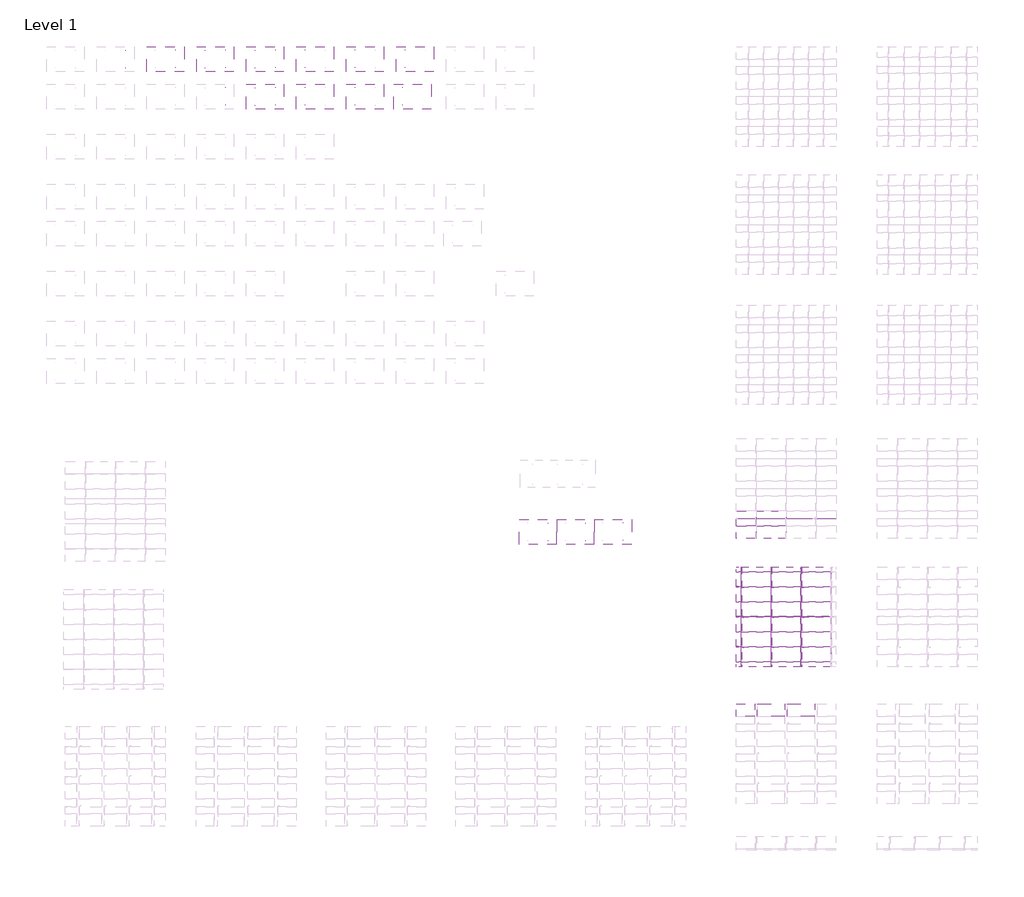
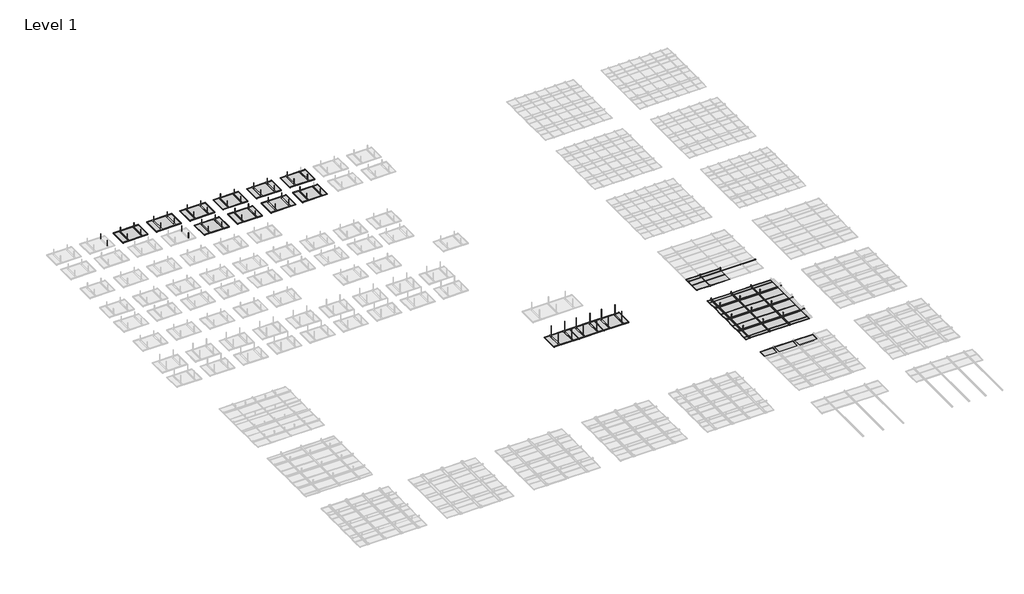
# One storey, part 18 of 32: 138 proxies.
"""IFC4 building model written with IfcOpenShell, lengths in millimetres."""

from ifc_helpers import new_model, si_unit, origin, place, context, project, spatial, transform, mapped, element, save
from components import generic_models_7de01034, generic_models_81909a8c, generic_models_6a3b3989, generic_models_23599627, generic_models_0eccee6e, generic_models_0902a4dc, generic_models_fc0800be, generic_models_f1efeb4e, generic_models_8a91d987, generic_models_204b18f4, generic_models_ee162b96, generic_models_9e18e937, generic_models_28f6a95c, generic_models_9ccf16c1, generic_models_38625c8c, generic_models_52b0cff2, generic_models_a15f8cf3, generic_models_8a6f20a3, generic_models_7573e460, generic_models_cc1ed79e, generic_models_831c42b2, generic_models_85b4ffa8

model = new_model("IFC4")

# Units and contexts
model_context = context("Model", 3, world=origin())
ifc_project = project(units=[si_unit("LENGTHUNIT", "METRE", prefix="MILLI")], contexts=[model_context])

# Site, building, storey
site = spatial("IfcSite", under=ifc_project)
building = spatial("IfcBuilding", under=site)
storey = spatial("IfcBuildingStorey", under=building, Name="Level 1", Elevation=0.0)

# Proxies
placement = place(None, origin())
generic_models_shape = generic_models_7de01034(model_context)
element("IfcBuildingElementProxy", 1, Name="durlum_S4_panel : durlum_S4_panel", ObjectType="durlum_S4_panel : durlum_S4_panel", at=placement, inside=storey, context=model_context, shape_type="MappedRepresentation", body=[
    mapped(generic_models_shape, transform((-18590.1736977, 3132.0111467, 3700.0), x_axis=(1.0, 0.0, 0.0), y_axis=(0.0, 1.0, 0.0), z_axis=(0.0, 0.0, 1.0))),
])
element("IfcBuildingElementProxy", 2, Name="durlum_S4_panel : durlum_S4_panel", ObjectType="durlum_S4_panel : durlum_S4_panel", at=placement, inside=storey, context=model_context, shape_type="MappedRepresentation", body=[
    mapped(generic_models_shape, transform((-16190.1736977, 3132.0111467, 3700.0), x_axis=(1.0, 0.0, 0.0), y_axis=(0.0, 1.0, 0.0), z_axis=(0.0, 0.0, 1.0))),
])
element("IfcBuildingElementProxy", 3, Name="durlum_S4_panel : durlum_S4_panel", ObjectType="durlum_S4_panel : durlum_S4_panel", at=placement, inside=storey, context=model_context, shape_type="MappedRepresentation", body=[
    mapped(generic_models_shape, transform((-18590.1736977, 3732.0111467, 3700.0), x_axis=(1.0, 0.0, 0.0), y_axis=(0.0, 1.0, 0.0), z_axis=(0.0, 0.0, 1.0))),
])
element("IfcBuildingElementProxy", 4, Name="durlum_S4_panel : durlum_S4_panel", ObjectType="durlum_S4_panel : durlum_S4_panel", at=placement, inside=storey, context=model_context, shape_type="MappedRepresentation", body=[
    mapped(generic_models_shape, transform((-18590.1736977, 4332.0111467, 3700.0), x_axis=(1.0, 0.0, 0.0), y_axis=(0.0, 1.0, 0.0), z_axis=(0.0, 0.0, 1.0))),
])
element("IfcBuildingElementProxy", 5, Name="durlum_S4_panel : durlum_S4_panel", ObjectType="durlum_S4_panel : durlum_S4_panel", at=placement, inside=storey, context=model_context, shape_type="MappedRepresentation", body=[
    mapped(generic_models_shape, transform((-16190.1736977, 4332.0111467, 3700.0), x_axis=(1.0, 0.0, 0.0), y_axis=(0.0, 1.0, 0.0), z_axis=(0.0, 0.0, 1.0))),
])
element("IfcBuildingElementProxy", 6, Name="durlum_S4_panel : durlum_S4_panel", ObjectType="durlum_S4_panel : durlum_S4_panel", at=placement, inside=storey, context=model_context, shape_type="MappedRepresentation", body=[
    mapped(generic_models_shape, transform((-18590.1736977, 4932.0111467, 3700.0), x_axis=(1.0, 0.0, 0.0), y_axis=(0.0, 1.0, 0.0), z_axis=(0.0, 0.0, 1.0))),
])
element("IfcBuildingElementProxy", 7, Name="durlum_S4_panel : durlum_S4_panel", ObjectType="durlum_S4_panel : durlum_S4_panel", at=placement, inside=storey, context=model_context, shape_type="MappedRepresentation", body=[
    mapped(generic_models_shape, transform((-16190.1736977, 4932.0111467, 3700.0), x_axis=(1.0, 0.0, 0.0), y_axis=(0.0, 1.0, 0.0), z_axis=(0.0, 0.0, 1.0))),
])
element("IfcBuildingElementProxy", 8, Name="durlum_S4_panel : durlum_S4_panel", ObjectType="durlum_S4_panel : durlum_S4_panel", at=placement, inside=storey, context=model_context, shape_type="MappedRepresentation", body=[
    mapped(generic_models_shape, transform((-18590.1736977, 2532.0111467, 3700.0), x_axis=(1.0, 0.0, 0.0), y_axis=(0.0, 1.0, 0.0), z_axis=(0.0, 0.0, 1.0))),
])
element("IfcBuildingElementProxy", 9, Name="durlum_S4_panel : durlum_S4_panel", ObjectType="durlum_S4_panel : durlum_S4_panel", at=placement, inside=storey, context=model_context, shape_type="MappedRepresentation", body=[
    mapped(generic_models_shape, transform((-16190.1736977, 2532.0111467, 3700.0), x_axis=(1.0, 0.0, 0.0), y_axis=(0.0, 1.0, 0.0), z_axis=(0.0, 0.0, 1.0))),
])
element("IfcBuildingElementProxy", 10, Name="durlum_S4_panel : durlum_S4_panel", ObjectType="durlum_S4_panel : durlum_S4_panel", at=placement, inside=storey, context=model_context, shape_type="MappedRepresentation", body=[
    mapped(generic_models_shape, transform((-18590.1736977, 5532.0111467, 3700.0), x_axis=(1.0, 0.0, 0.0), y_axis=(0.0, 1.0, 0.0), z_axis=(0.0, 0.0, 1.0))),
])
element("IfcBuildingElementProxy", 11, Name="durlum_S4_panel : durlum_S4_panel", ObjectType="durlum_S4_panel : durlum_S4_panel", at=placement, inside=storey, context=model_context, shape_type="MappedRepresentation", body=[
    mapped(generic_models_shape, transform((-16190.1736977, 5532.0111467, 3700.0), x_axis=(1.0, 0.0, 0.0), y_axis=(0.0, 1.0, 0.0), z_axis=(0.0, 0.0, 1.0))),
])
element("IfcBuildingElementProxy", 12, Name="durlum_S4_panel : durlum_S4_panel", ObjectType="durlum_S4_panel : durlum_S4_panel", at=placement, inside=storey, context=model_context, shape_type="MappedRepresentation", body=[
    mapped(generic_models_shape, transform((-16190.1736977, 3732.0111467, 3700.0), x_axis=(1.0, 0.0, 0.0), y_axis=(0.0, 1.0, 0.0), z_axis=(0.0, 0.0, 1.0))),
])
element("IfcBuildingElementProxy", 13, Name="durlum_S4_panel : durlum_S4_panel", ObjectType="durlum_S4_panel : durlum_S4_panel", at=placement, inside=storey, context=model_context, shape_type="MappedRepresentation", body=[
    mapped(generic_models_shape, transform((-17390.1736977, 3132.0111467, 3700.0), x_axis=(1.0, 0.0, 0.0), y_axis=(0.0, 1.0, 0.0), z_axis=(0.0, 0.0, 1.0))),
])
element("IfcBuildingElementProxy", 14, Name="durlum_S4_panel : durlum_S4_panel", ObjectType="durlum_S4_panel : durlum_S4_panel", at=placement, inside=storey, context=model_context, shape_type="MappedRepresentation", body=[
    mapped(generic_models_shape, transform((-17390.1736977, 3732.0111467, 3700.0), x_axis=(1.0, 0.0, 0.0), y_axis=(0.0, 1.0, 0.0), z_axis=(0.0, 0.0, 1.0))),
])
element("IfcBuildingElementProxy", 15, Name="durlum_S4_panel : durlum_S4_panel", ObjectType="durlum_S4_panel : durlum_S4_panel", at=placement, inside=storey, context=model_context, shape_type="MappedRepresentation", body=[
    mapped(generic_models_shape, transform((-17390.1736977, 4332.0111467, 3700.0), x_axis=(1.0, 0.0, 0.0), y_axis=(0.0, 1.0, 0.0), z_axis=(0.0, 0.0, 1.0))),
])
element("IfcBuildingElementProxy", 16, Name="durlum_S4_panel : durlum_S4_panel", ObjectType="durlum_S4_panel : durlum_S4_panel", at=placement, inside=storey, context=model_context, shape_type="MappedRepresentation", body=[
    mapped(generic_models_shape, transform((-17390.1736977, 4932.0111467, 3700.0), x_axis=(1.0, 0.0, 0.0), y_axis=(0.0, 1.0, 0.0), z_axis=(0.0, 0.0, 1.0))),
])
element("IfcBuildingElementProxy", 17, Name="durlum_S4_panel : durlum_S4_panel", ObjectType="durlum_S4_panel : durlum_S4_panel", at=placement, inside=storey, context=model_context, shape_type="MappedRepresentation", body=[
    mapped(generic_models_shape, transform((-17390.1736977, 2532.0111467, 3700.0), x_axis=(1.0, 0.0, 0.0), y_axis=(0.0, 1.0, 0.0), z_axis=(0.0, 0.0, 1.0))),
])
element("IfcBuildingElementProxy", 18, Name="durlum_S4_panel : durlum_S4_panel", ObjectType="durlum_S4_panel : durlum_S4_panel", at=placement, inside=storey, context=model_context, shape_type="MappedRepresentation", body=[
    mapped(generic_models_shape, transform((-17390.1736977, 5532.0111467, 3700.0), x_axis=(1.0, 0.0, 0.0), y_axis=(0.0, 1.0, 0.0), z_axis=(0.0, 0.0, 1.0))),
])
generic_models_2_shape = generic_models_81909a8c(model_context)
element("IfcBuildingElementProxy", 19, Name="durlum_S4_panel : durlum_S4_panel_wall_width_cut", ObjectType="durlum_S4_panel : durlum_S4_panel_wall_width_cut", at=placement, inside=storey, context=model_context, shape_type="MappedRepresentation", body=[
    mapped(generic_models_2_shape, transform((-16190.1736977, 2132.0111467, 3700.0), x_axis=(1.0, 0.0, 0.0), y_axis=(0.0, 1.0, 0.0), z_axis=(0.0, 0.0, 1.0))),
])
element("IfcBuildingElementProxy", 20, Name="durlum_S4_panel : durlum_S4_panel_wall_width_cut", ObjectType="durlum_S4_panel : durlum_S4_panel_wall_width_cut", at=placement, inside=storey, context=model_context, shape_type="MappedRepresentation", body=[
    mapped(generic_models_2_shape, transform((-16190.1736977, 5932.0111467, 3700.0), x_axis=(1.0, 0.0, 0.0), y_axis=(0.0, 1.0, 0.0), z_axis=(0.0, 0.0, 1.0))),
])
element("IfcBuildingElementProxy", 21, Name="durlum_S4_panel : durlum_S4_panel_wall_width_cut", ObjectType="durlum_S4_panel : durlum_S4_panel_wall_width_cut", at=placement, inside=storey, context=model_context, shape_type="MappedRepresentation", body=[
    mapped(generic_models_2_shape, transform((-18590.1736977, 2132.0111467, 3700.0), x_axis=(1.0, 0.0, 0.0), y_axis=(0.0, 1.0, 0.0), z_axis=(0.0, 0.0, 1.0))),
])
element("IfcBuildingElementProxy", 22, Name="durlum_S4_panel : durlum_S4_panel_wall_width_cut", ObjectType="durlum_S4_panel : durlum_S4_panel_wall_width_cut", at=placement, inside=storey, context=model_context, shape_type="MappedRepresentation", body=[
    mapped(generic_models_2_shape, transform((-18590.1736977, 5932.0111467, 3700.0), x_axis=(1.0, 0.0, 0.0), y_axis=(0.0, 1.0, 0.0), z_axis=(0.0, 0.0, 1.0))),
])
element("IfcBuildingElementProxy", 23, Name="durlum_S4_panel : durlum_S4_panel_wall_width_cut", ObjectType="durlum_S4_panel : durlum_S4_panel_wall_width_cut", at=placement, inside=storey, context=model_context, shape_type="MappedRepresentation", body=[
    mapped(generic_models_2_shape, transform((-17390.1736977, 2132.0111467, 3700.0), x_axis=(1.0, 0.0, 0.0), y_axis=(0.0, 1.0, 0.0), z_axis=(0.0, 0.0, 1.0))),
])
element("IfcBuildingElementProxy", 24, Name="durlum_S4_panel : durlum_S4_panel_wall_width_cut", ObjectType="durlum_S4_panel : durlum_S4_panel_wall_width_cut", at=placement, inside=storey, context=model_context, shape_type="MappedRepresentation", body=[
    mapped(generic_models_2_shape, transform((-17390.1736977, 5932.0111467, 3700.0), x_axis=(1.0, 0.0, 0.0), y_axis=(0.0, 1.0, 0.0), z_axis=(0.0, 0.0, 1.0))),
])
generic_models_3_shape = generic_models_6a3b3989(model_context)
element("IfcBuildingElementProxy", 25, Name="durlum_S4_panel : durlum_S4_panel_wall_length_cut", ObjectType="durlum_S4_panel : durlum_S4_panel_wall_length_cut", at=placement, inside=storey, context=model_context, shape_type="MappedRepresentation", body=[
    mapped(generic_models_3_shape, transform((-19290.1736977, 3132.0111467, 3700.0), x_axis=(1.0, 0.0, 0.0), y_axis=(0.0, 1.0, 0.0), z_axis=(0.0, 0.0, 1.0))),
])
element("IfcBuildingElementProxy", 26, Name="durlum_S4_panel : durlum_S4_panel_wall_length_cut", ObjectType="durlum_S4_panel : durlum_S4_panel_wall_length_cut", at=placement, inside=storey, context=model_context, shape_type="MappedRepresentation", body=[
    mapped(generic_models_3_shape, transform((-19290.1736977, 3732.0111467, 3700.0), x_axis=(1.0, 0.0, 0.0), y_axis=(0.0, 1.0, 0.0), z_axis=(0.0, 0.0, 1.0))),
])
element("IfcBuildingElementProxy", 27, Name="durlum_S4_panel : durlum_S4_panel_wall_length_cut", ObjectType="durlum_S4_panel : durlum_S4_panel_wall_length_cut", at=placement, inside=storey, context=model_context, shape_type="MappedRepresentation", body=[
    mapped(generic_models_3_shape, transform((-19290.1736977, 4332.0111467, 3700.0), x_axis=(1.0, 0.0, 0.0), y_axis=(0.0, 1.0, 0.0), z_axis=(0.0, 0.0, 1.0))),
])
element("IfcBuildingElementProxy", 28, Name="durlum_S4_panel : durlum_S4_panel_wall_length_cut", ObjectType="durlum_S4_panel : durlum_S4_panel_wall_length_cut", at=placement, inside=storey, context=model_context, shape_type="MappedRepresentation", body=[
    mapped(generic_models_3_shape, transform((-19290.1736977, 4932.0111467, 3700.0), x_axis=(1.0, 0.0, 0.0), y_axis=(0.0, 1.0, 0.0), z_axis=(0.0, 0.0, 1.0))),
])
element("IfcBuildingElementProxy", 29, Name="durlum_S4_panel : durlum_S4_panel_wall_length_cut", ObjectType="durlum_S4_panel : durlum_S4_panel_wall_length_cut", at=placement, inside=storey, context=model_context, shape_type="MappedRepresentation", body=[
    mapped(generic_models_3_shape, transform((-19290.1736977, 2532.0111467, 3700.0), x_axis=(1.0, 0.0, 0.0), y_axis=(0.0, 1.0, 0.0), z_axis=(0.0, 0.0, 1.0))),
])
element("IfcBuildingElementProxy", 30, Name="durlum_S4_panel : durlum_S4_panel_wall_length_cut", ObjectType="durlum_S4_panel : durlum_S4_panel_wall_length_cut", at=placement, inside=storey, context=model_context, shape_type="MappedRepresentation", body=[
    mapped(generic_models_3_shape, transform((-19290.1736977, 5532.0111467, 3700.0), x_axis=(1.0, 0.0, 0.0), y_axis=(0.0, 1.0, 0.0), z_axis=(0.0, 0.0, 1.0))),
])
generic_models_4_shape = generic_models_23599627(model_context)
element("IfcBuildingElementProxy", 31, Name="durlum_S4_panel : durlum_S4_panel_wall_corner", ObjectType="durlum_S4_panel : durlum_S4_panel_wall_corner", at=placement, inside=storey, context=model_context, shape_type="MappedRepresentation", body=[
    mapped(generic_models_4_shape, transform((-19290.1736977, 2132.0111467, 3700.0), x_axis=(1.0, 0.0, 0.0), y_axis=(0.0, 1.0, 0.0), z_axis=(0.0, 0.0, 1.0))),
])
element("IfcBuildingElementProxy", 32, Name="durlum_S4_panel : durlum_S4_panel_wall_corner", ObjectType="durlum_S4_panel : durlum_S4_panel_wall_corner", at=placement, inside=storey, context=model_context, shape_type="MappedRepresentation", body=[
    mapped(generic_models_4_shape, transform((-19290.1736977, 5932.0111467, 3700.0), x_axis=(1.0, 0.0, 0.0), y_axis=(0.0, 1.0, 0.0), z_axis=(0.0, 0.0, 1.0))),
])
generic_models_5_shape = generic_models_0eccee6e(model_context)
element("IfcBuildingElementProxy", 33, Name="durlum_dur_SOLO_RHOMBOS_TYPE1 : durlum_dur_SOLO_RHOMBOS_TYPE1", ObjectType="durlum_dur_SOLO_RHOMBOS_TYPE1 : durlum_dur_SOLO_RHOMBOS_TYPE1", at=placement, inside=storey, context=model_context, shape_type="MappedRepresentation", body=[
    mapped(generic_models_5_shape, transform((-24317.5776803, 7432.9405891, 3268.4515177), x_axis=(1.0, 0.0, 0.0), y_axis=(0.0, 1.0, 0.0), z_axis=(0.0, 0.0, 1.0))),
])
element("IfcBuildingElementProxy", 34, Name="durlum_dur_SOLO_RHOMBOS_TYPE1 : durlum_dur_SOLO_RHOMBOS_TYPE1", ObjectType="durlum_dur_SOLO_RHOMBOS_TYPE1 : durlum_dur_SOLO_RHOMBOS_TYPE1", at=placement, inside=storey, context=model_context, shape_type="MappedRepresentation", body=[
    mapped(generic_models_5_shape, transform((-27317.5776803, 7432.9405891, 3268.4515177), x_axis=(1.0, 0.0, 0.0), y_axis=(0.0, 1.0, 0.0), z_axis=(0.0, 0.0, 1.0))),
])
element("IfcBuildingElementProxy", 35, Name="durlum_dur_SOLO_RHOMBOS_TYPE1 : durlum_dur_SOLO_RHOMBOS_TYPE1", ObjectType="durlum_dur_SOLO_RHOMBOS_TYPE1 : durlum_dur_SOLO_RHOMBOS_TYPE1", at=placement, inside=storey, context=model_context, shape_type="MappedRepresentation", body=[
    mapped(generic_models_5_shape, transform((-25817.5776803, 7432.9405891, 3268.4515177), x_axis=(1.0, 0.0, 0.0), y_axis=(0.0, 1.0, 0.0), z_axis=(0.0, 0.0, 1.0))),
])
generic_models_6_shape = generic_models_0902a4dc(model_context)
element("IfcBuildingElementProxy", 36, Name="durlum_S5-100_panel : durlum_S5-100_panel_wall_corner", ObjectType="durlum_S5-100_panel : durlum_S5-100_panel_wall_corner", at=placement, inside=storey, context=model_context, shape_type="MappedRepresentation", body=[
    mapped(generic_models_6_shape, transform((-19015.4236977, 301.7696119, 3800.0), x_axis=(1.0, 0.0, 0.0), y_axis=(0.0, 1.0, 0.0), z_axis=(0.0, 0.0, 1.0))),
])
generic_models_7_shape = generic_models_fc0800be(model_context)
element("IfcBuildingElementProxy", 37, Name="durlum_S5-100_panel : durlum_S5-100_panel_wall_width_cut", ObjectType="durlum_S5-100_panel : durlum_S5-100_panel_wall_width_cut", at=placement, inside=storey, context=model_context, shape_type="MappedRepresentation", body=[
    mapped(generic_models_7_shape, transform((-16790.1736977, 301.7696119, 3800.0), x_axis=(1.0, 0.0, 0.0), y_axis=(0.0, 1.0, 0.0), z_axis=(0.0, 0.0, 1.0))),
])
element("IfcBuildingElementProxy", 38, Name="durlum_S5-100_panel : durlum_S5-100_panel_wall_width_cut", ObjectType="durlum_S5-100_panel : durlum_S5-100_panel_wall_width_cut", at=placement, inside=storey, context=model_context, shape_type="MappedRepresentation", body=[
    mapped(generic_models_7_shape, transform((-17990.1736977, 301.7696119, 3800.0), x_axis=(1.0, 0.0, 0.0), y_axis=(0.0, 1.0, 0.0), z_axis=(0.0, 0.0, 1.0))),
])
generic_models_8_shape = generic_models_f1efeb4e(model_context)
element("IfcBuildingElementProxy", 39, Name="durlum_U1300 : durlum_U1300", ObjectType="durlum_U1300 : durlum_U1300", at=placement, inside=storey, context=model_context, shape_type="MappedRepresentation", body=[
    mapped(generic_models_8_shape, transform((-18684.1736977, 7962.5129347, 3081.9124682), x_axis=(0.0, -1.0, 0.0), y_axis=(1.0, 0.0, 0.0), z_axis=(0.0, 0.0, 1.0))),
])
element("IfcBuildingElementProxy", 40, Name="durlum_U1300 : durlum_U1300", ObjectType="durlum_U1300 : durlum_U1300", at=placement, inside=storey, context=model_context, shape_type="MappedRepresentation", body=[
    mapped(generic_models_8_shape, transform((-17484.1736977, 7962.5129347, 3081.9124682), x_axis=(0.0, -1.0, 0.0), y_axis=(1.0, 0.0, 0.0), z_axis=(0.0, 0.0, 1.0))),
])
generic_models_9_shape = generic_models_8a91d987(model_context)
element("IfcBuildingElementProxy", 41, Name="durlum_U1300 : durlum_U1300", ObjectType="durlum_U1300 : durlum_U1300", at=placement, inside=storey, context=model_context, shape_type="MappedRepresentation", body=[
    mapped(generic_models_9_shape, transform((-19090.1736977, 2832.0111467, 3050.4124682), x_axis=(1.0, 0.0, 0.0), y_axis=(0.0, 1.0, 0.0), z_axis=(0.0, 0.0, 1.0))),
])
element("IfcBuildingElementProxy", 42, Name="durlum_U1300 : durlum_U1300", ObjectType="durlum_U1300 : durlum_U1300", at=placement, inside=storey, context=model_context, shape_type="MappedRepresentation", body=[
    mapped(generic_models_9_shape, transform((-19090.1736977, 5232.0111467, 3050.4124682), x_axis=(1.0, 0.0, 0.0), y_axis=(0.0, 1.0, 0.0), z_axis=(0.0, 0.0, 1.0))),
])
element("IfcBuildingElementProxy", 43, Name="durlum_U1300 : durlum_U1300", ObjectType="durlum_U1300 : durlum_U1300", at=placement, inside=storey, context=model_context, shape_type="MappedRepresentation", body=[
    mapped(generic_models_9_shape, transform((-19090.1736977, 4032.0111467, 3050.4124682), x_axis=(1.0, 0.0, 0.0), y_axis=(0.0, 1.0, 0.0), z_axis=(0.0, 0.0, 1.0))),
])
element("IfcBuildingElementProxy", 44, Name="durlum_U1300 : durlum_U1300", ObjectType="durlum_U1300 : durlum_U1300", at=placement, inside=storey, context=model_context, shape_type="MappedRepresentation", body=[
    mapped(generic_models_9_shape, transform((-17890.1736977, 2832.0111467, 3050.4124682), x_axis=(1.0, 0.0, 0.0), y_axis=(0.0, 1.0, 0.0), z_axis=(0.0, 0.0, 1.0))),
])
element("IfcBuildingElementProxy", 45, Name="durlum_U1300 : durlum_U1300", ObjectType="durlum_U1300 : durlum_U1300", at=placement, inside=storey, context=model_context, shape_type="MappedRepresentation", body=[
    mapped(generic_models_9_shape, transform((-16690.1736977, 2832.0111467, 3050.4124682), x_axis=(1.0, 0.0, 0.0), y_axis=(0.0, 1.0, 0.0), z_axis=(0.0, 0.0, 1.0))),
])
element("IfcBuildingElementProxy", 46, Name="durlum_U1300 : durlum_U1300", ObjectType="durlum_U1300 : durlum_U1300", at=placement, inside=storey, context=model_context, shape_type="MappedRepresentation", body=[
    mapped(generic_models_9_shape, transform((-17890.1736977, 5232.0111467, 3050.4124682), x_axis=(1.0, 0.0, 0.0), y_axis=(0.0, 1.0, 0.0), z_axis=(0.0, 0.0, 1.0))),
])
element("IfcBuildingElementProxy", 47, Name="durlum_U1300 : durlum_U1300", ObjectType="durlum_U1300 : durlum_U1300", at=placement, inside=storey, context=model_context, shape_type="MappedRepresentation", body=[
    mapped(generic_models_9_shape, transform((-16690.1736977, 5232.0111467, 3050.4124682), x_axis=(1.0, 0.0, 0.0), y_axis=(0.0, 1.0, 0.0), z_axis=(0.0, 0.0, 1.0))),
])
element("IfcBuildingElementProxy", 48, Name="durlum_U1300 : durlum_U1300", ObjectType="durlum_U1300 : durlum_U1300", at=placement, inside=storey, context=model_context, shape_type="MappedRepresentation", body=[
    mapped(generic_models_9_shape, transform((-17890.1736977, 4032.0111467, 3050.4124682), x_axis=(1.0, 0.0, 0.0), y_axis=(0.0, 1.0, 0.0), z_axis=(0.0, 0.0, 1.0))),
])
element("IfcBuildingElementProxy", 49, Name="durlum_U1300 : durlum_U1300", ObjectType="durlum_U1300 : durlum_U1300", at=placement, inside=storey, context=model_context, shape_type="MappedRepresentation", body=[
    mapped(generic_models_9_shape, transform((-16690.1736977, 4032.0111467, 3050.4124682), x_axis=(1.0, 0.0, 0.0), y_axis=(0.0, 1.0, 0.0), z_axis=(0.0, 0.0, 1.0))),
])
generic_models_10_shape = generic_models_204b18f4(model_context)
element("IfcBuildingElementProxy", 50, Name="durlum_threaded_rod_M6 : durlum_threaded_rod_M6", ObjectType="durlum_threaded_rod_M6 : durlum_threaded_rod_M6", at=placement, inside=storey, context=model_context, shape_type="MappedRepresentation", body=[
    mapped(generic_models_10_shape, transform((-23912.5776803, 7082.9405891, 3318.4515177), x_axis=(0.0, -1.0, 0.0), y_axis=(1.0, 0.0, 0.0), z_axis=(0.0, 0.0, 1.0))),
])
element("IfcBuildingElementProxy", 51, Name="durlum_threaded_rod_M6 : durlum_threaded_rod_M6", ObjectType="durlum_threaded_rod_M6 : durlum_threaded_rod_M6", at=placement, inside=storey, context=model_context, shape_type="MappedRepresentation", body=[
    mapped(generic_models_10_shape, transform((-23912.5776803, 7782.9405891, 3318.4515177), x_axis=(0.0, -1.0, 0.0), y_axis=(1.0, 0.0, 0.0), z_axis=(0.0, 0.0, 1.0))),
])
element("IfcBuildingElementProxy", 52, Name="durlum_threaded_rod_M6 : durlum_threaded_rod_M6", ObjectType="durlum_threaded_rod_M6 : durlum_threaded_rod_M6", at=placement, inside=storey, context=model_context, shape_type="MappedRepresentation", body=[
    mapped(generic_models_10_shape, transform((-24722.5776803, 7082.9405891, 3318.4515177), x_axis=(0.0, -1.0, 0.0), y_axis=(1.0, 0.0, 0.0), z_axis=(0.0, 0.0, 1.0))),
])
element("IfcBuildingElementProxy", 53, Name="durlum_threaded_rod_M6 : durlum_threaded_rod_M6", ObjectType="durlum_threaded_rod_M6 : durlum_threaded_rod_M6", at=placement, inside=storey, context=model_context, shape_type="MappedRepresentation", body=[
    mapped(generic_models_10_shape, transform((-24722.5776803, 7782.9405891, 3318.4515177), x_axis=(0.0, -1.0, 0.0), y_axis=(1.0, 0.0, 0.0), z_axis=(0.0, 0.0, 1.0))),
])
element("IfcBuildingElementProxy", 54, Name="durlum_threaded_rod_M6 : durlum_threaded_rod_M6", ObjectType="durlum_threaded_rod_M6 : durlum_threaded_rod_M6", at=placement, inside=storey, context=model_context, shape_type="MappedRepresentation", body=[
    mapped(generic_models_10_shape, transform((-26912.5776803, 7082.9405891, 3318.4515177), x_axis=(0.0, -1.0, 0.0), y_axis=(1.0, 0.0, 0.0), z_axis=(0.0, 0.0, 1.0))),
])
element("IfcBuildingElementProxy", 55, Name="durlum_threaded_rod_M6 : durlum_threaded_rod_M6", ObjectType="durlum_threaded_rod_M6 : durlum_threaded_rod_M6", at=placement, inside=storey, context=model_context, shape_type="MappedRepresentation", body=[
    mapped(generic_models_10_shape, transform((-26912.5776803, 7782.9405891, 3318.4515177), x_axis=(0.0, -1.0, 0.0), y_axis=(1.0, 0.0, 0.0), z_axis=(0.0, 0.0, 1.0))),
])
element("IfcBuildingElementProxy", 56, Name="durlum_threaded_rod_M6 : durlum_threaded_rod_M6", ObjectType="durlum_threaded_rod_M6 : durlum_threaded_rod_M6", at=placement, inside=storey, context=model_context, shape_type="MappedRepresentation", body=[
    mapped(generic_models_10_shape, transform((-27722.5776803, 7082.9405891, 3318.4515177), x_axis=(0.0, -1.0, 0.0), y_axis=(1.0, 0.0, 0.0), z_axis=(0.0, 0.0, 1.0))),
])
element("IfcBuildingElementProxy", 57, Name="durlum_threaded_rod_M6 : durlum_threaded_rod_M6", ObjectType="durlum_threaded_rod_M6 : durlum_threaded_rod_M6", at=placement, inside=storey, context=model_context, shape_type="MappedRepresentation", body=[
    mapped(generic_models_10_shape, transform((-27722.5776803, 7782.9405891, 3318.4515177), x_axis=(0.0, -1.0, 0.0), y_axis=(1.0, 0.0, 0.0), z_axis=(0.0, 0.0, 1.0))),
])
element("IfcBuildingElementProxy", 58, Name="durlum_threaded_rod_M6 : durlum_threaded_rod_M6", ObjectType="durlum_threaded_rod_M6 : durlum_threaded_rod_M6", at=placement, inside=storey, context=model_context, shape_type="MappedRepresentation", body=[
    mapped(generic_models_10_shape, transform((-25412.5776803, 7082.9405891, 3318.4515177), x_axis=(0.0, -1.0, 0.0), y_axis=(1.0, 0.0, 0.0), z_axis=(0.0, 0.0, 1.0))),
])
element("IfcBuildingElementProxy", 59, Name="durlum_threaded_rod_M6 : durlum_threaded_rod_M6", ObjectType="durlum_threaded_rod_M6 : durlum_threaded_rod_M6", at=placement, inside=storey, context=model_context, shape_type="MappedRepresentation", body=[
    mapped(generic_models_10_shape, transform((-25412.5776803, 7782.9405891, 3318.4515177), x_axis=(0.0, -1.0, 0.0), y_axis=(1.0, 0.0, 0.0), z_axis=(0.0, 0.0, 1.0))),
])
element("IfcBuildingElementProxy", 60, Name="durlum_threaded_rod_M6 : durlum_threaded_rod_M6", ObjectType="durlum_threaded_rod_M6 : durlum_threaded_rod_M6", at=placement, inside=storey, context=model_context, shape_type="MappedRepresentation", body=[
    mapped(generic_models_10_shape, transform((-26222.5776803, 7082.9405891, 3318.4515177), x_axis=(0.0, -1.0, 0.0), y_axis=(1.0, 0.0, 0.0), z_axis=(0.0, 0.0, 1.0))),
])
element("IfcBuildingElementProxy", 61, Name="durlum_threaded_rod_M6 : durlum_threaded_rod_M6", ObjectType="durlum_threaded_rod_M6 : durlum_threaded_rod_M6", at=placement, inside=storey, context=model_context, shape_type="MappedRepresentation", body=[
    mapped(generic_models_10_shape, transform((-26222.5776803, 7782.9405891, 3318.4515177), x_axis=(0.0, -1.0, 0.0), y_axis=(1.0, 0.0, 0.0), z_axis=(0.0, 0.0, 1.0))),
])
generic_models_11_shape = generic_models_ee162b96(model_context)
element("IfcBuildingElementProxy", 62, Name="durlum_threaded_rod_M6 : durlum_threaded_rod_M6", ObjectType="durlum_threaded_rod_M6 : durlum_threaded_rod_M6", at=placement, inside=storey, context=model_context, shape_type="MappedRepresentation", body=[
    mapped(generic_models_11_shape, transform((-43821.531136, 26008.7392516, 3672.1013669), x_axis=(0.0, -1.0, 0.0), y_axis=(1.0, 0.0, 0.0), z_axis=(0.0, 0.0, 1.0))),
])
element("IfcBuildingElementProxy", 63, Name="durlum_threaded_rod_M6 : durlum_threaded_rod_M6", ObjectType="durlum_threaded_rod_M6 : durlum_threaded_rod_M6", at=placement, inside=storey, context=model_context, shape_type="MappedRepresentation", body=[
    mapped(generic_models_11_shape, transform((-43821.531136, 26708.7392516, 3672.1013669), x_axis=(0.0, -1.0, 0.0), y_axis=(1.0, 0.0, 0.0), z_axis=(0.0, 0.0, 1.0))),
])
element("IfcBuildingElementProxy", 64, Name="durlum_threaded_rod_M6 : durlum_threaded_rod_M6", ObjectType="durlum_threaded_rod_M6 : durlum_threaded_rod_M6", at=placement, inside=storey, context=model_context, shape_type="MappedRepresentation", body=[
    mapped(generic_models_11_shape, transform((-41821.531136, 26008.7392516, 3672.1013669), x_axis=(0.0, -1.0, 0.0), y_axis=(1.0, 0.0, 0.0), z_axis=(0.0, 0.0, 1.0))),
])
element("IfcBuildingElementProxy", 65, Name="durlum_threaded_rod_M6 : durlum_threaded_rod_M6", ObjectType="durlum_threaded_rod_M6 : durlum_threaded_rod_M6", at=placement, inside=storey, context=model_context, shape_type="MappedRepresentation", body=[
    mapped(generic_models_11_shape, transform((-41821.531136, 26708.7392516, 3672.1013669), x_axis=(0.0, -1.0, 0.0), y_axis=(1.0, 0.0, 0.0), z_axis=(0.0, 0.0, 1.0))),
])
element("IfcBuildingElementProxy", 66, Name="durlum_threaded_rod_M6 : durlum_threaded_rod_M6", ObjectType="durlum_threaded_rod_M6 : durlum_threaded_rod_M6", at=placement, inside=storey, context=model_context, shape_type="MappedRepresentation", body=[
    mapped(generic_models_11_shape, transform((-42631.531136, 26008.7392516, 3672.1013669), x_axis=(0.0, -1.0, 0.0), y_axis=(1.0, 0.0, 0.0), z_axis=(0.0, 0.0, 1.0))),
])
element("IfcBuildingElementProxy", 67, Name="durlum_threaded_rod_M6 : durlum_threaded_rod_M6", ObjectType="durlum_threaded_rod_M6 : durlum_threaded_rod_M6", at=placement, inside=storey, context=model_context, shape_type="MappedRepresentation", body=[
    mapped(generic_models_11_shape, transform((-42631.531136, 26708.7392516, 3672.1013669), x_axis=(0.0, -1.0, 0.0), y_axis=(1.0, 0.0, 0.0), z_axis=(0.0, 0.0, 1.0))),
])
element("IfcBuildingElementProxy", 68, Name="durlum_threaded_rod_M6 : durlum_threaded_rod_M6", ObjectType="durlum_threaded_rod_M6 : durlum_threaded_rod_M6", at=placement, inside=storey, context=model_context, shape_type="MappedRepresentation", body=[
    mapped(generic_models_11_shape, transform((-39821.531136, 26008.7392516, 3672.1013669), x_axis=(0.0, -1.0, 0.0), y_axis=(1.0, 0.0, 0.0), z_axis=(0.0, 0.0, 1.0))),
])
element("IfcBuildingElementProxy", 69, Name="durlum_threaded_rod_M6 : durlum_threaded_rod_M6", ObjectType="durlum_threaded_rod_M6 : durlum_threaded_rod_M6", at=placement, inside=storey, context=model_context, shape_type="MappedRepresentation", body=[
    mapped(generic_models_11_shape, transform((-39821.531136, 26708.7392516, 3672.1013669), x_axis=(0.0, -1.0, 0.0), y_axis=(1.0, 0.0, 0.0), z_axis=(0.0, 0.0, 1.0))),
])
element("IfcBuildingElementProxy", 70, Name="durlum_threaded_rod_M6 : durlum_threaded_rod_M6", ObjectType="durlum_threaded_rod_M6 : durlum_threaded_rod_M6", at=placement, inside=storey, context=model_context, shape_type="MappedRepresentation", body=[
    mapped(generic_models_11_shape, transform((-40631.531136, 26008.7392516, 3672.1013669), x_axis=(0.0, -1.0, 0.0), y_axis=(1.0, 0.0, 0.0), z_axis=(0.0, 0.0, 1.0))),
])
element("IfcBuildingElementProxy", 71, Name="durlum_threaded_rod_M6 : durlum_threaded_rod_M6", ObjectType="durlum_threaded_rod_M6 : durlum_threaded_rod_M6", at=placement, inside=storey, context=model_context, shape_type="MappedRepresentation", body=[
    mapped(generic_models_11_shape, transform((-40631.531136, 26708.7392516, 3672.1013669), x_axis=(0.0, -1.0, 0.0), y_axis=(1.0, 0.0, 0.0), z_axis=(0.0, 0.0, 1.0))),
])
element("IfcBuildingElementProxy", 72, Name="durlum_threaded_rod_M6 : durlum_threaded_rod_M6", ObjectType="durlum_threaded_rod_M6 : durlum_threaded_rod_M6", at=placement, inside=storey, context=model_context, shape_type="MappedRepresentation", body=[
    mapped(generic_models_11_shape, transform((-37821.531136, 26008.7392516, 3672.1013669), x_axis=(0.0, -1.0, 0.0), y_axis=(1.0, 0.0, 0.0), z_axis=(0.0, 0.0, 1.0))),
])
element("IfcBuildingElementProxy", 73, Name="durlum_threaded_rod_M6 : durlum_threaded_rod_M6", ObjectType="durlum_threaded_rod_M6 : durlum_threaded_rod_M6", at=placement, inside=storey, context=model_context, shape_type="MappedRepresentation", body=[
    mapped(generic_models_11_shape, transform((-37821.531136, 26708.7392516, 3672.1013669), x_axis=(0.0, -1.0, 0.0), y_axis=(1.0, 0.0, 0.0), z_axis=(0.0, 0.0, 1.0))),
])
element("IfcBuildingElementProxy", 74, Name="durlum_threaded_rod_M6 : durlum_threaded_rod_M6", ObjectType="durlum_threaded_rod_M6 : durlum_threaded_rod_M6", at=placement, inside=storey, context=model_context, shape_type="MappedRepresentation", body=[
    mapped(generic_models_11_shape, transform((-38631.531136, 26008.7392516, 3672.1013669), x_axis=(0.0, -1.0, 0.0), y_axis=(1.0, 0.0, 0.0), z_axis=(0.0, 0.0, 1.0))),
])
element("IfcBuildingElementProxy", 75, Name="durlum_threaded_rod_M6 : durlum_threaded_rod_M6", ObjectType="durlum_threaded_rod_M6 : durlum_threaded_rod_M6", at=placement, inside=storey, context=model_context, shape_type="MappedRepresentation", body=[
    mapped(generic_models_11_shape, transform((-38631.531136, 26708.7392516, 3672.1013669), x_axis=(0.0, -1.0, 0.0), y_axis=(1.0, 0.0, 0.0), z_axis=(0.0, 0.0, 1.0))),
])
element("IfcBuildingElementProxy", 76, Name="durlum_threaded_rod_M6 : durlum_threaded_rod_M6", ObjectType="durlum_threaded_rod_M6 : durlum_threaded_rod_M6", at=placement, inside=storey, context=model_context, shape_type="MappedRepresentation", body=[
    mapped(generic_models_11_shape, transform((-35821.531136, 26008.7392516, 3672.1013669), x_axis=(0.0, -1.0, 0.0), y_axis=(1.0, 0.0, 0.0), z_axis=(0.0, 0.0, 1.0))),
])
element("IfcBuildingElementProxy", 77, Name="durlum_threaded_rod_M6 : durlum_threaded_rod_M6", ObjectType="durlum_threaded_rod_M6 : durlum_threaded_rod_M6", at=placement, inside=storey, context=model_context, shape_type="MappedRepresentation", body=[
    mapped(generic_models_11_shape, transform((-35821.531136, 26708.7392516, 3672.1013669), x_axis=(0.0, -1.0, 0.0), y_axis=(1.0, 0.0, 0.0), z_axis=(0.0, 0.0, 1.0))),
])
element("IfcBuildingElementProxy", 78, Name="durlum_threaded_rod_M6 : durlum_threaded_rod_M6", ObjectType="durlum_threaded_rod_M6 : durlum_threaded_rod_M6", at=placement, inside=storey, context=model_context, shape_type="MappedRepresentation", body=[
    mapped(generic_models_11_shape, transform((-36631.531136, 26008.7392516, 3672.1013669), x_axis=(0.0, -1.0, 0.0), y_axis=(1.0, 0.0, 0.0), z_axis=(0.0, 0.0, 1.0))),
])
element("IfcBuildingElementProxy", 79, Name="durlum_threaded_rod_M6 : durlum_threaded_rod_M6", ObjectType="durlum_threaded_rod_M6 : durlum_threaded_rod_M6", at=placement, inside=storey, context=model_context, shape_type="MappedRepresentation", body=[
    mapped(generic_models_11_shape, transform((-36631.531136, 26708.7392516, 3672.1013669), x_axis=(0.0, -1.0, 0.0), y_axis=(1.0, 0.0, 0.0), z_axis=(0.0, 0.0, 1.0))),
])
element("IfcBuildingElementProxy", 80, Name="durlum_threaded_rod_M6 : durlum_threaded_rod_M6", ObjectType="durlum_threaded_rod_M6 : durlum_threaded_rod_M6", at=placement, inside=storey, context=model_context, shape_type="MappedRepresentation", body=[
    mapped(generic_models_11_shape, transform((-33821.531136, 26008.7392516, 3672.1013669), x_axis=(0.0, -1.0, 0.0), y_axis=(1.0, 0.0, 0.0), z_axis=(0.0, 0.0, 1.0))),
])
element("IfcBuildingElementProxy", 81, Name="durlum_threaded_rod_M6 : durlum_threaded_rod_M6", ObjectType="durlum_threaded_rod_M6 : durlum_threaded_rod_M6", at=placement, inside=storey, context=model_context, shape_type="MappedRepresentation", body=[
    mapped(generic_models_11_shape, transform((-33821.531136, 26708.7392516, 3672.1013669), x_axis=(0.0, -1.0, 0.0), y_axis=(1.0, 0.0, 0.0), z_axis=(0.0, 0.0, 1.0))),
])
element("IfcBuildingElementProxy", 82, Name="durlum_threaded_rod_M6 : durlum_threaded_rod_M6", ObjectType="durlum_threaded_rod_M6 : durlum_threaded_rod_M6", at=placement, inside=storey, context=model_context, shape_type="MappedRepresentation", body=[
    mapped(generic_models_11_shape, transform((-34631.531136, 26008.7392516, 3672.1013669), x_axis=(0.0, -1.0, 0.0), y_axis=(1.0, 0.0, 0.0), z_axis=(0.0, 0.0, 1.0))),
])
element("IfcBuildingElementProxy", 83, Name="durlum_threaded_rod_M6 : durlum_threaded_rod_M6", ObjectType="durlum_threaded_rod_M6 : durlum_threaded_rod_M6", at=placement, inside=storey, context=model_context, shape_type="MappedRepresentation", body=[
    mapped(generic_models_11_shape, transform((-34631.531136, 26708.7392516, 3672.1013669), x_axis=(0.0, -1.0, 0.0), y_axis=(1.0, 0.0, 0.0), z_axis=(0.0, 0.0, 1.0))),
])
element("IfcBuildingElementProxy", 84, Name="durlum_threaded_rod_M6 : durlum_threaded_rod_M6", ObjectType="durlum_threaded_rod_M6 : durlum_threaded_rod_M6", at=placement, inside=storey, context=model_context, shape_type="MappedRepresentation", body=[
    mapped(generic_models_11_shape, transform((-32631.531136, 26008.7392516, 3672.1013669), x_axis=(0.0, -1.0, 0.0), y_axis=(1.0, 0.0, 0.0), z_axis=(0.0, 0.0, 1.0))),
])
element("IfcBuildingElementProxy", 85, Name="durlum_threaded_rod_M6 : durlum_threaded_rod_M6", ObjectType="durlum_threaded_rod_M6 : durlum_threaded_rod_M6", at=placement, inside=storey, context=model_context, shape_type="MappedRepresentation", body=[
    mapped(generic_models_11_shape, transform((-32631.531136, 26708.7392516, 3672.1013669), x_axis=(0.0, -1.0, 0.0), y_axis=(1.0, 0.0, 0.0), z_axis=(0.0, 0.0, 1.0))),
])
element("IfcBuildingElementProxy", 86, Name="durlum_threaded_rod_M6 : durlum_threaded_rod_M6", ObjectType="durlum_threaded_rod_M6 : durlum_threaded_rod_M6", at=placement, inside=storey, context=model_context, shape_type="MappedRepresentation", body=[
    mapped(generic_models_11_shape, transform((-39821.531136, 24508.7392516, 3672.1013669), x_axis=(0.0, -1.0, 0.0), y_axis=(1.0, 0.0, 0.0), z_axis=(0.0, 0.0, 1.0))),
])
element("IfcBuildingElementProxy", 87, Name="durlum_threaded_rod_M6 : durlum_threaded_rod_M6", ObjectType="durlum_threaded_rod_M6 : durlum_threaded_rod_M6", at=placement, inside=storey, context=model_context, shape_type="MappedRepresentation", body=[
    mapped(generic_models_11_shape, transform((-39821.531136, 25208.7392516, 3672.1013669), x_axis=(0.0, -1.0, 0.0), y_axis=(1.0, 0.0, 0.0), z_axis=(0.0, 0.0, 1.0))),
])
element("IfcBuildingElementProxy", 88, Name="durlum_threaded_rod_M6 : durlum_threaded_rod_M6", ObjectType="durlum_threaded_rod_M6 : durlum_threaded_rod_M6", at=placement, inside=storey, context=model_context, shape_type="MappedRepresentation", body=[
    mapped(generic_models_11_shape, transform((-37821.531136, 24508.7392516, 3672.1013669), x_axis=(0.0, -1.0, 0.0), y_axis=(1.0, 0.0, 0.0), z_axis=(0.0, 0.0, 1.0))),
])
element("IfcBuildingElementProxy", 89, Name="durlum_threaded_rod_M6 : durlum_threaded_rod_M6", ObjectType="durlum_threaded_rod_M6 : durlum_threaded_rod_M6", at=placement, inside=storey, context=model_context, shape_type="MappedRepresentation", body=[
    mapped(generic_models_11_shape, transform((-37821.531136, 25208.7392516, 3672.1013669), x_axis=(0.0, -1.0, 0.0), y_axis=(1.0, 0.0, 0.0), z_axis=(0.0, 0.0, 1.0))),
])
element("IfcBuildingElementProxy", 90, Name="durlum_threaded_rod_M6 : durlum_threaded_rod_M6", ObjectType="durlum_threaded_rod_M6 : durlum_threaded_rod_M6", at=placement, inside=storey, context=model_context, shape_type="MappedRepresentation", body=[
    mapped(generic_models_11_shape, transform((-38631.531136, 24508.7392516, 3672.1013669), x_axis=(0.0, -1.0, 0.0), y_axis=(1.0, 0.0, 0.0), z_axis=(0.0, 0.0, 1.0))),
])
element("IfcBuildingElementProxy", 91, Name="durlum_threaded_rod_M6 : durlum_threaded_rod_M6", ObjectType="durlum_threaded_rod_M6 : durlum_threaded_rod_M6", at=placement, inside=storey, context=model_context, shape_type="MappedRepresentation", body=[
    mapped(generic_models_11_shape, transform((-38631.531136, 25208.7392516, 3672.1013669), x_axis=(0.0, -1.0, 0.0), y_axis=(1.0, 0.0, 0.0), z_axis=(0.0, 0.0, 1.0))),
])
element("IfcBuildingElementProxy", 92, Name="durlum_threaded_rod_M6 : durlum_threaded_rod_M6", ObjectType="durlum_threaded_rod_M6 : durlum_threaded_rod_M6", at=placement, inside=storey, context=model_context, shape_type="MappedRepresentation", body=[
    mapped(generic_models_11_shape, transform((-35821.531136, 24508.7392516, 3672.1013669), x_axis=(0.0, -1.0, 0.0), y_axis=(1.0, 0.0, 0.0), z_axis=(0.0, 0.0, 1.0))),
])
element("IfcBuildingElementProxy", 93, Name="durlum_threaded_rod_M6 : durlum_threaded_rod_M6", ObjectType="durlum_threaded_rod_M6 : durlum_threaded_rod_M6", at=placement, inside=storey, context=model_context, shape_type="MappedRepresentation", body=[
    mapped(generic_models_11_shape, transform((-35821.531136, 25208.7392516, 3672.1013669), x_axis=(0.0, -1.0, 0.0), y_axis=(1.0, 0.0, 0.0), z_axis=(0.0, 0.0, 1.0))),
])
element("IfcBuildingElementProxy", 94, Name="durlum_threaded_rod_M6 : durlum_threaded_rod_M6", ObjectType="durlum_threaded_rod_M6 : durlum_threaded_rod_M6", at=placement, inside=storey, context=model_context, shape_type="MappedRepresentation", body=[
    mapped(generic_models_11_shape, transform((-36631.531136, 24508.7392516, 3672.1013669), x_axis=(0.0, -1.0, 0.0), y_axis=(1.0, 0.0, 0.0), z_axis=(0.0, 0.0, 1.0))),
])
element("IfcBuildingElementProxy", 95, Name="durlum_threaded_rod_M6 : durlum_threaded_rod_M6", ObjectType="durlum_threaded_rod_M6 : durlum_threaded_rod_M6", at=placement, inside=storey, context=model_context, shape_type="MappedRepresentation", body=[
    mapped(generic_models_11_shape, transform((-36631.531136, 25208.7392516, 3672.1013669), x_axis=(0.0, -1.0, 0.0), y_axis=(1.0, 0.0, 0.0), z_axis=(0.0, 0.0, 1.0))),
])
element("IfcBuildingElementProxy", 96, Name="durlum_threaded_rod_M6 : durlum_threaded_rod_M6", ObjectType="durlum_threaded_rod_M6 : durlum_threaded_rod_M6", at=placement, inside=storey, context=model_context, shape_type="MappedRepresentation", body=[
    mapped(generic_models_11_shape, transform((-33821.531136, 24508.7392516, 3672.1013669), x_axis=(0.0, -1.0, 0.0), y_axis=(1.0, 0.0, 0.0), z_axis=(0.0, 0.0, 1.0))),
])
element("IfcBuildingElementProxy", 97, Name="durlum_threaded_rod_M6 : durlum_threaded_rod_M6", ObjectType="durlum_threaded_rod_M6 : durlum_threaded_rod_M6", at=placement, inside=storey, context=model_context, shape_type="MappedRepresentation", body=[
    mapped(generic_models_11_shape, transform((-33821.531136, 25208.7392516, 3672.1013669), x_axis=(0.0, -1.0, 0.0), y_axis=(1.0, 0.0, 0.0), z_axis=(0.0, 0.0, 1.0))),
])
element("IfcBuildingElementProxy", 98, Name="durlum_threaded_rod_M6 : durlum_threaded_rod_M6", ObjectType="durlum_threaded_rod_M6 : durlum_threaded_rod_M6", at=placement, inside=storey, context=model_context, shape_type="MappedRepresentation", body=[
    mapped(generic_models_11_shape, transform((-34631.531136, 24508.7392516, 3672.1013669), x_axis=(0.0, -1.0, 0.0), y_axis=(1.0, 0.0, 0.0), z_axis=(0.0, 0.0, 1.0))),
])
element("IfcBuildingElementProxy", 99, Name="durlum_threaded_rod_M6 : durlum_threaded_rod_M6", ObjectType="durlum_threaded_rod_M6 : durlum_threaded_rod_M6", at=placement, inside=storey, context=model_context, shape_type="MappedRepresentation", body=[
    mapped(generic_models_11_shape, transform((-34631.531136, 25208.7392516, 3672.1013669), x_axis=(0.0, -1.0, 0.0), y_axis=(1.0, 0.0, 0.0), z_axis=(0.0, 0.0, 1.0))),
])
element("IfcBuildingElementProxy", 100, Name="durlum_threaded_rod_M6 : durlum_threaded_rod_M6", ObjectType="durlum_threaded_rod_M6 : durlum_threaded_rod_M6", at=placement, inside=storey, context=model_context, shape_type="MappedRepresentation", body=[
    mapped(generic_models_11_shape, transform((-32731.531136, 24508.7392516, 3672.1013669), x_axis=(0.0, -1.0, 0.0), y_axis=(1.0, 0.0, 0.0), z_axis=(0.0, 0.0, 1.0))),
])
element("IfcBuildingElementProxy", 101, Name="durlum_threaded_rod_M6 : durlum_threaded_rod_M6", ObjectType="durlum_threaded_rod_M6 : durlum_threaded_rod_M6", at=placement, inside=storey, context=model_context, shape_type="MappedRepresentation", body=[
    mapped(generic_models_11_shape, transform((-32731.531136, 25208.7392516, 3672.1013669), x_axis=(0.0, -1.0, 0.0), y_axis=(1.0, 0.0, 0.0), z_axis=(0.0, 0.0, 1.0))),
])
generic_models_12_shape = generic_models_9e18e937(model_context)
element("IfcBuildingElementProxy", 102, Name="durlum_U1042 : durlum_U1042", ObjectType="durlum_U1042 : durlum_U1042", at=placement, inside=storey, context=model_context, shape_type="MappedRepresentation", body=[
    mapped(generic_models_12_shape, transform((-19171.7736977, 6032.0111467, 3772.0), x_axis=(1.0, 0.0, 0.0), y_axis=(0.0, 1.0, 0.0), z_axis=(0.0, 0.0, 1.0))),
])
element("IfcBuildingElementProxy", 103, Name="durlum_U1042 : durlum_U1042", ObjectType="durlum_U1042 : durlum_U1042", at=placement, inside=storey, context=model_context, shape_type="MappedRepresentation", body=[
    mapped(generic_models_12_shape, transform((-19171.7736977, 2032.0111467, 3772.0), x_axis=(-1.0, 0.0, 0.0), y_axis=(0.0, -1.0, 0.0), z_axis=(0.0, 0.0, 1.0))),
])
element("IfcBuildingElementProxy", 104, Name="durlum_U1042 : durlum_U1042", ObjectType="durlum_U1042 : durlum_U1042", at=placement, inside=storey, context=model_context, shape_type="MappedRepresentation", body=[
    mapped(generic_models_12_shape, transform((-17971.7736977, 2032.0111467, 3772.0), x_axis=(-1.0, 0.0, 0.0), y_axis=(0.0, -1.0, 0.0), z_axis=(0.0, 0.0, 1.0))),
])
element("IfcBuildingElementProxy", 105, Name="durlum_U1042 : durlum_U1042", ObjectType="durlum_U1042 : durlum_U1042", at=placement, inside=storey, context=model_context, shape_type="MappedRepresentation", body=[
    mapped(generic_models_12_shape, transform((-17971.7736977, 6032.0111467, 3772.0), x_axis=(1.0, 0.0, 0.0), y_axis=(0.0, 1.0, 0.0), z_axis=(0.0, 0.0, 1.0))),
])
element("IfcBuildingElementProxy", 106, Name="durlum_U1042 : durlum_U1042", ObjectType="durlum_U1042 : durlum_U1042", at=placement, inside=storey, context=model_context, shape_type="MappedRepresentation", body=[
    mapped(generic_models_12_shape, transform((-16771.7736977, 6032.0111467, 3772.0), x_axis=(1.0, 0.0, 0.0), y_axis=(0.0, 1.0, 0.0), z_axis=(0.0, 0.0, 1.0))),
])
element("IfcBuildingElementProxy", 107, Name="durlum_U1042 : durlum_U1042", ObjectType="durlum_U1042 : durlum_U1042", at=placement, inside=storey, context=model_context, shape_type="MappedRepresentation", body=[
    mapped(generic_models_12_shape, transform((-16771.7736977, 2032.0111467, 3772.0), x_axis=(-1.0, 0.0, 0.0), y_axis=(0.0, -1.0, 0.0), z_axis=(0.0, 0.0, 1.0))),
])
generic_models_13_shape = generic_models_28f6a95c(model_context)
element("IfcBuildingElementProxy", 108, Name="durlum_U1042 : durlum_U1042", ObjectType="durlum_U1042 : durlum_U1042", at=placement, inside=storey, context=model_context, shape_type="MappedRepresentation", body=[
    mapped(generic_models_13_shape, transform((-19390.1736977, 4046.0111467, 3770.0), x_axis=(0.0, -1.0, 0.0), y_axis=(1.0, 0.0, 0.0), z_axis=(0.0, 0.0, 1.0))),
])
element("IfcBuildingElementProxy", 109, Name="durlum_U1042 : durlum_U1042", ObjectType="durlum_U1042 : durlum_U1042", at=placement, inside=storey, context=model_context, shape_type="MappedRepresentation", body=[
    mapped(generic_models_13_shape, transform((-19390.1736977, 2846.0111467, 3770.0), x_axis=(0.0, -1.0, 0.0), y_axis=(1.0, 0.0, 0.0), z_axis=(0.0, 0.0, 1.0))),
])
element("IfcBuildingElementProxy", 110, Name="durlum_U1042 : durlum_U1042", ObjectType="durlum_U1042 : durlum_U1042", at=placement, inside=storey, context=model_context, shape_type="MappedRepresentation", body=[
    mapped(generic_models_13_shape, transform((-19390.1736977, 5246.0111467, 3770.0), x_axis=(0.0, -1.0, 0.0), y_axis=(1.0, 0.0, 0.0), z_axis=(0.0, 0.0, 1.0))),
])
generic_models_14_shape = generic_models_9ccf16c1(model_context)
element("IfcBuildingElementProxy", 111, Name="durlum_U1044 : durlum_U1044", ObjectType="durlum_U1044 : durlum_U1044", at=placement, inside=storey, context=model_context, shape_type="MappedRepresentation", body=[
    mapped(generic_models_14_shape, transform((-19170.1736977, 4030.5111467, 3762.0), x_axis=(-1.0, 0.0, 0.0), y_axis=(0.0, -1.0, 0.0), z_axis=(0.0, 0.0, 1.0))),
])
element("IfcBuildingElementProxy", 112, Name="durlum_U1044 : durlum_U1044", ObjectType="durlum_U1044 : durlum_U1044", at=placement, inside=storey, context=model_context, shape_type="MappedRepresentation", body=[
    mapped(generic_models_14_shape, transform((-19170.1736977, 2830.5111467, 3762.0), x_axis=(-1.0, 0.0, 0.0), y_axis=(0.0, -1.0, 0.0), z_axis=(0.0, 0.0, 1.0))),
])
element("IfcBuildingElementProxy", 113, Name="durlum_U1044 : durlum_U1044", ObjectType="durlum_U1044 : durlum_U1044", at=placement, inside=storey, context=model_context, shape_type="MappedRepresentation", body=[
    mapped(generic_models_14_shape, transform((-19170.1736977, 5230.5111467, 3762.0), x_axis=(-1.0, 0.0, 0.0), y_axis=(0.0, -1.0, 0.0), z_axis=(0.0, 0.0, 1.0))),
])
element("IfcBuildingElementProxy", 114, Name="durlum_U1044 : durlum_U1044", ObjectType="durlum_U1044 : durlum_U1044", at=placement, inside=storey, context=model_context, shape_type="MappedRepresentation", body=[
    mapped(generic_models_14_shape, transform((-17970.1736977, 4030.5111467, 3762.0), x_axis=(-1.0, 0.0, 0.0), y_axis=(0.0, -1.0, 0.0), z_axis=(0.0, 0.0, 1.0))),
])
element("IfcBuildingElementProxy", 115, Name="durlum_U1044 : durlum_U1044", ObjectType="durlum_U1044 : durlum_U1044", at=placement, inside=storey, context=model_context, shape_type="MappedRepresentation", body=[
    mapped(generic_models_14_shape, transform((-16770.1736977, 4030.5111467, 3762.0), x_axis=(-1.0, 0.0, 0.0), y_axis=(0.0, -1.0, 0.0), z_axis=(0.0, 0.0, 1.0))),
])
element("IfcBuildingElementProxy", 116, Name="durlum_U1044 : durlum_U1044", ObjectType="durlum_U1044 : durlum_U1044", at=placement, inside=storey, context=model_context, shape_type="MappedRepresentation", body=[
    mapped(generic_models_14_shape, transform((-17970.1736977, 2830.5111467, 3762.0), x_axis=(-1.0, 0.0, 0.0), y_axis=(0.0, -1.0, 0.0), z_axis=(0.0, 0.0, 1.0))),
])
element("IfcBuildingElementProxy", 117, Name="durlum_U1044 : durlum_U1044", ObjectType="durlum_U1044 : durlum_U1044", at=placement, inside=storey, context=model_context, shape_type="MappedRepresentation", body=[
    mapped(generic_models_14_shape, transform((-16770.1736977, 2830.5111467, 3762.0), x_axis=(-1.0, 0.0, 0.0), y_axis=(0.0, -1.0, 0.0), z_axis=(0.0, 0.0, 1.0))),
])
element("IfcBuildingElementProxy", 118, Name="durlum_U1044 : durlum_U1044", ObjectType="durlum_U1044 : durlum_U1044", at=placement, inside=storey, context=model_context, shape_type="MappedRepresentation", body=[
    mapped(generic_models_14_shape, transform((-17970.1736977, 5230.5111467, 3762.0), x_axis=(-1.0, 0.0, 0.0), y_axis=(0.0, -1.0, 0.0), z_axis=(0.0, 0.0, 1.0))),
])
element("IfcBuildingElementProxy", 119, Name="durlum_U1044 : durlum_U1044", ObjectType="durlum_U1044 : durlum_U1044", at=placement, inside=storey, context=model_context, shape_type="MappedRepresentation", body=[
    mapped(generic_models_14_shape, transform((-16770.1736977, 5230.5111467, 3762.0), x_axis=(-1.0, 0.0, 0.0), y_axis=(0.0, -1.0, 0.0), z_axis=(0.0, 0.0, 1.0))),
])
generic_models_15_shape = generic_models_38625c8c(model_context)
element("IfcBuildingElementProxy", 120, Name="durlum_U1000 : durlum_U1000", ObjectType="durlum_U1000 : durlum_U1000", at=placement, inside=storey, context=model_context, shape_type="MappedRepresentation", body=[
    mapped(generic_models_15_shape, transform((-17384.1736977, 7962.5129347, 3760.4163794), x_axis=(1.0, 0.0, 0.0), y_axis=(0.0, 1.0, 0.0), z_axis=(0.0, 0.0, 1.0))),
])
generic_models_16_shape = generic_models_52b0cff2(model_context)
element("IfcBuildingElementProxy", 121, Name="durlum_S1.12_panel : durlum_S1.12_panel_wall_width_cut", ObjectType="durlum_S1.12_panel : durlum_S1.12_panel_wall_width_cut", at=placement, inside=storey, context=model_context, shape_type="MappedRepresentation", body=[
    mapped(generic_models_16_shape, transform((-17984.1736977, 7412.5129347, 3700.0), x_axis=(1.0, 0.0, 0.0), y_axis=(0.0, 1.0, 0.0), z_axis=(0.0, 0.0, 1.0))),
])
generic_models_17_shape = generic_models_a15f8cf3(model_context)
element("IfcBuildingElementProxy", 122, Name="durlum_S1.12_panel : durlum_S1.12_panel", ObjectType="durlum_S1.12_panel : durlum_S1.12_panel", at=placement, inside=storey, context=model_context, shape_type="MappedRepresentation", body=[
    mapped(generic_models_17_shape, transform((-17984.1736977, 7962.5129347, 3700.0), x_axis=(1.0, 0.0, 0.0), y_axis=(0.0, 1.0, 0.0), z_axis=(0.0, 0.0, 1.0))),
])
generic_models_18_shape = generic_models_8a6f20a3(model_context)
element("IfcBuildingElementProxy", 123, Name="durlum_U1005 : durlum_U_1005_A", ObjectType="durlum_U1005 : durlum_U_1005_A", at=placement, inside=storey, context=model_context, shape_type="MappedRepresentation", body=[
    mapped(generic_models_18_shape, transform((-19173.1736977, 4032.0111467, 3722.0), x_axis=(0.0, 1.0, 0.0), y_axis=(-1.0, 0.0, 0.0), z_axis=(0.0, 0.0, 1.0))),
])
element("IfcBuildingElementProxy", 124, Name="durlum_U1005 : durlum_U_1005_A", ObjectType="durlum_U1005 : durlum_U_1005_A", at=placement, inside=storey, context=model_context, shape_type="MappedRepresentation", body=[
    mapped(generic_models_18_shape, transform((-17973.1736977, 4032.0111467, 3722.0), x_axis=(0.0, 1.0, 0.0), y_axis=(-1.0, 0.0, 0.0), z_axis=(0.0, 0.0, 1.0))),
])
element("IfcBuildingElementProxy", 125, Name="durlum_U1005 : durlum_U_1005_A", ObjectType="durlum_U1005 : durlum_U_1005_A", at=placement, inside=storey, context=model_context, shape_type="MappedRepresentation", body=[
    mapped(generic_models_18_shape, transform((-16773.1736977, 4032.0111467, 3722.0), x_axis=(0.0, 1.0, 0.0), y_axis=(-1.0, 0.0, 0.0), z_axis=(0.0, 0.0, 1.0))),
])
generic_models_19_shape = generic_models_7573e460(model_context)
element("IfcBuildingElementProxy", 126, Name="durlum_S1.12_panel : durlum_S1.12_panel_wall_length_cut", ObjectType="durlum_S1.12_panel : durlum_S1.12_panel_wall_length_cut", at=placement, inside=storey, context=model_context, shape_type="MappedRepresentation", body=[
    mapped(generic_models_19_shape, transform((-18984.1736977, 7962.5129347, 3700.0), x_axis=(1.0, 0.0, 0.0), y_axis=(0.0, 1.0, 0.0), z_axis=(0.0, 0.0, 1.0))),
])
generic_models_20_shape = generic_models_cc1ed79e(model_context)
element("IfcBuildingElementProxy", 127, Name="durlum_S1.12_panel : durlum_S1.12_panel_wall_corner", ObjectType="durlum_S1.12_panel : durlum_S1.12_panel_wall_corner", at=placement, inside=storey, context=model_context, shape_type="MappedRepresentation", body=[
    mapped(generic_models_20_shape, transform((-18984.1736977, 7412.5129347, 3700.0), x_axis=(1.0, 0.0, 0.0), y_axis=(0.0, 1.0, 0.0), z_axis=(0.0, 0.0, 1.0))),
])
generic_models_21_shape = generic_models_831c42b2(model_context)
element("IfcBuildingElementProxy", 128, Name="durlum_S4 : durlum_S4", ObjectType="durlum_S4 : durlum_S4", at=placement, inside=storey, context=model_context, shape_type="MappedRepresentation", body=[
    mapped(generic_models_21_shape, transform((-17390.1736977, 4032.0111467, -1605.1851536), x_axis=(1.0, 0.0, 0.0), y_axis=(0.0, 1.0, 0.0), z_axis=(0.0, 0.0, 1.0))),
])
generic_models_22_shape = generic_models_85b4ffa8(model_context)
element("IfcBuildingElementProxy", 129, Name="durlum_dur_SOLO_TYPE1 : durlum_dur_SOLO_TYPE1", ObjectType="durlum_dur_SOLO_TYPE1 : durlum_dur_SOLO_TYPE1", at=placement, inside=storey, context=model_context, shape_type="MappedRepresentation", body=[
    mapped(generic_models_22_shape, transform((-42226.531136, 26358.7392516, 3622.1013669), x_axis=(1.0, 0.0, 0.0), y_axis=(0.0, 1.0, 0.0), z_axis=(0.0, 0.0, 1.0))),
])
element("IfcBuildingElementProxy", 130, Name="durlum_dur_SOLO_TYPE1 : durlum_dur_SOLO_TYPE1", ObjectType="durlum_dur_SOLO_TYPE1 : durlum_dur_SOLO_TYPE1", at=placement, inside=storey, context=model_context, shape_type="MappedRepresentation", body=[
    mapped(generic_models_22_shape, transform((-40226.531136, 26358.7392516, 3622.1013669), x_axis=(1.0, 0.0, 0.0), y_axis=(0.0, 1.0, 0.0), z_axis=(0.0, 0.0, 1.0))),
])
element("IfcBuildingElementProxy", 131, Name="durlum_dur_SOLO_TYPE1 : durlum_dur_SOLO_TYPE1", ObjectType="durlum_dur_SOLO_TYPE1 : durlum_dur_SOLO_TYPE1", at=placement, inside=storey, context=model_context, shape_type="MappedRepresentation", body=[
    mapped(generic_models_22_shape, transform((-38226.531136, 26358.7392516, 3622.1013669), x_axis=(1.0, 0.0, 0.0), y_axis=(0.0, 1.0, 0.0), z_axis=(0.0, 0.0, 1.0))),
])
element("IfcBuildingElementProxy", 132, Name="durlum_dur_SOLO_TYPE1 : durlum_dur_SOLO_TYPE1", ObjectType="durlum_dur_SOLO_TYPE1 : durlum_dur_SOLO_TYPE1", at=placement, inside=storey, context=model_context, shape_type="MappedRepresentation", body=[
    mapped(generic_models_22_shape, transform((-36226.531136, 26358.7392516, 3622.1013669), x_axis=(1.0, 0.0, 0.0), y_axis=(0.0, 1.0, 0.0), z_axis=(0.0, 0.0, 1.0))),
])
element("IfcBuildingElementProxy", 133, Name="durlum_dur_SOLO_TYPE1 : durlum_dur_SOLO_TYPE1", ObjectType="durlum_dur_SOLO_TYPE1 : durlum_dur_SOLO_TYPE1", at=placement, inside=storey, context=model_context, shape_type="MappedRepresentation", body=[
    mapped(generic_models_22_shape, transform((-34226.531136, 26358.7392516, 3622.1013669), x_axis=(1.0, 0.0, 0.0), y_axis=(0.0, 1.0, 0.0), z_axis=(0.0, 0.0, 1.0))),
])
element("IfcBuildingElementProxy", 134, Name="durlum_dur_SOLO_TYPE1 : durlum_dur_SOLO_TYPE1", ObjectType="durlum_dur_SOLO_TYPE1 : durlum_dur_SOLO_TYPE1", at=placement, inside=storey, context=model_context, shape_type="MappedRepresentation", body=[
    mapped(generic_models_22_shape, transform((-32226.531136, 26358.7392516, 3622.1013669), x_axis=(1.0, 0.0, 0.0), y_axis=(0.0, 1.0, 0.0), z_axis=(0.0, 0.0, 1.0))),
])
element("IfcBuildingElementProxy", 135, Name="durlum_dur_SOLO_TYPE1 : durlum_dur_SOLO_TYPE1", ObjectType="durlum_dur_SOLO_TYPE1 : durlum_dur_SOLO_TYPE1", at=placement, inside=storey, context=model_context, shape_type="MappedRepresentation", body=[
    mapped(generic_models_22_shape, transform((-38226.531136, 24858.7392516, 3622.1013669), x_axis=(1.0, 0.0, 0.0), y_axis=(0.0, 1.0, 0.0), z_axis=(0.0, 0.0, 1.0))),
])
element("IfcBuildingElementProxy", 136, Name="durlum_dur_SOLO_TYPE1 : durlum_dur_SOLO_TYPE1", ObjectType="durlum_dur_SOLO_TYPE1 : durlum_dur_SOLO_TYPE1", at=placement, inside=storey, context=model_context, shape_type="MappedRepresentation", body=[
    mapped(generic_models_22_shape, transform((-36226.531136, 24858.7392516, 3622.1013669), x_axis=(1.0, 0.0, 0.0), y_axis=(0.0, 1.0, 0.0), z_axis=(0.0, 0.0, 1.0))),
])
element("IfcBuildingElementProxy", 137, Name="durlum_dur_SOLO_TYPE1 : durlum_dur_SOLO_TYPE1", ObjectType="durlum_dur_SOLO_TYPE1 : durlum_dur_SOLO_TYPE1", at=placement, inside=storey, context=model_context, shape_type="MappedRepresentation", body=[
    mapped(generic_models_22_shape, transform((-34226.531136, 24858.7392516, 3622.1013669), x_axis=(1.0, 0.0, 0.0), y_axis=(0.0, 1.0, 0.0), z_axis=(0.0, 0.0, 1.0))),
])
element("IfcBuildingElementProxy", 138, Name="durlum_dur_SOLO_TYPE1 : durlum_dur_SOLO_TYPE1", ObjectType="durlum_dur_SOLO_TYPE1 : durlum_dur_SOLO_TYPE1", at=placement, inside=storey, context=model_context, shape_type="MappedRepresentation", body=[
    mapped(generic_models_22_shape, transform((-32326.531136, 24858.7392516, 3622.1013669), x_axis=(1.0, 0.0, 0.0), y_axis=(0.0, 1.0, 0.0), z_axis=(0.0, 0.0, 1.0))),
])

save(model, "model.ifc")
